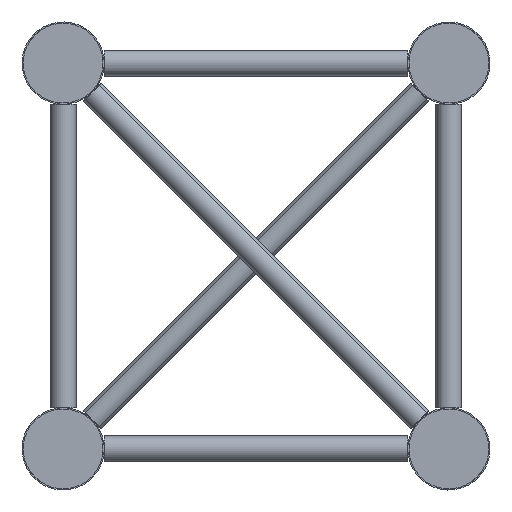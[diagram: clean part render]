
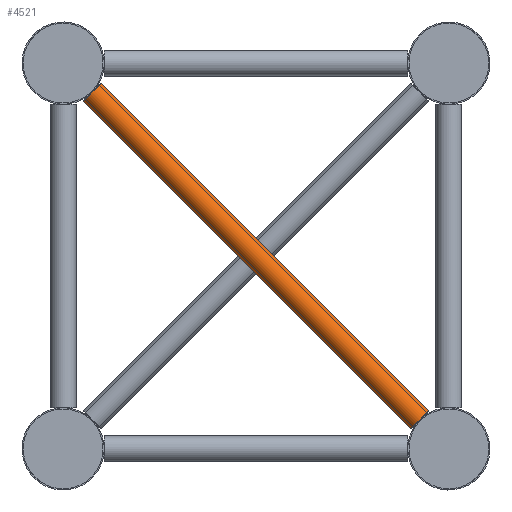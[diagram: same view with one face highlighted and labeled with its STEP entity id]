
A CAD part, left-side view. The second image highlights one B-rep face of the part: STEP entity #4521.
In plain terms, the highlighted cylindrical face has radius 8 mm (diameter 16 mm), a full revolution.
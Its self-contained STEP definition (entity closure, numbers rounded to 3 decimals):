
#503=B_SPLINE_CURVE_WITH_KNOTS('',3,(#7408,#7409,#7410,#7411,#7412,#7413),
 .UNSPECIFIED.,.F.,.F.,(4,2,4),(1.187,1.214,1.242),
 .UNSPECIFIED.);
#505=B_SPLINE_CURVE_WITH_KNOTS('',3,(#7426,#7427,#7428,#7429,#7430,#7431),
 .UNSPECIFIED.,.F.,.F.,(4,2,4),(3.616,3.643,3.67),
 .UNSPECIFIED.);
#508=B_SPLINE_CURVE_WITH_KNOTS('',3,(#7462,#7463,#7464,#7465,#7466,#7467),
 .UNSPECIFIED.,.F.,.F.,(4,2,4),(1.187,1.214,1.242),
 .UNSPECIFIED.);
#509=B_SPLINE_CURVE_WITH_KNOTS('',3,(#7471,#7472,#7473,#7474,#7475,#7476),
 .UNSPECIFIED.,.F.,.F.,(4,2,4),(3.616,3.643,3.67),
 .UNSPECIFIED.);
#550=CYLINDRICAL_SURFACE('',#4950,8.);
#733=FACE_BOUND('',#1392,.T.);
#940=FACE_OUTER_BOUND('',#1391,.T.);
#1391=EDGE_LOOP('',(#3071,#3072,#3073,#3074));
#1392=EDGE_LOOP('',(#3075,#3076,#3077,#3078));
#1820=CIRCLE('',#4949,8.);
#1821=CIRCLE('',#4951,8.);
#1822=CIRCLE('',#4952,8.);
#1823=CIRCLE('',#4953,8.);
#2084=VERTEX_POINT('',#7405);
#2085=VERTEX_POINT('',#7407);
#2088=VERTEX_POINT('',#7423);
#2089=VERTEX_POINT('',#7425);
#2094=VERTEX_POINT('',#7460);
#2095=VERTEX_POINT('',#7461);
#2096=VERTEX_POINT('',#7468);
#2097=VERTEX_POINT('',#7470);
#2400=EDGE_CURVE('',#2085,#2084,#503,.T.);
#2404=EDGE_CURVE('',#2089,#2088,#505,.T.);
#2414=EDGE_CURVE('',#2084,#2089,#1820,.T.);
#2415=EDGE_CURVE('',#2094,#2095,#508,.T.);
#2416=EDGE_CURVE('',#2095,#2096,#1821,.T.);
#2417=EDGE_CURVE('',#2096,#2097,#509,.T.);
#2418=EDGE_CURVE('',#2097,#2094,#1822,.T.);
#2419=EDGE_CURVE('',#2088,#2085,#1823,.T.);
#3071=ORIENTED_EDGE('',*,*,#2415,.T.);
#3072=ORIENTED_EDGE('',*,*,#2416,.T.);
#3073=ORIENTED_EDGE('',*,*,#2417,.T.);
#3074=ORIENTED_EDGE('',*,*,#2418,.T.);
#3075=ORIENTED_EDGE('',*,*,#2400,.T.);
#3076=ORIENTED_EDGE('',*,*,#2414,.T.);
#3077=ORIENTED_EDGE('',*,*,#2404,.T.);
#3078=ORIENTED_EDGE('',*,*,#2419,.T.);
#4521=ADVANCED_FACE('',(#940,#733),#550,.T.);
#4949=AXIS2_PLACEMENT_3D('',#7458,#5835,#5836);
#4950=AXIS2_PLACEMENT_3D('',#7459,#5837,#5838);
#4951=AXIS2_PLACEMENT_3D('',#7469,#5839,#5840);
#4952=AXIS2_PLACEMENT_3D('',#7477,#5841,#5842);
#4953=AXIS2_PLACEMENT_3D('',#7478,#5843,#5844);
#5835=DIRECTION('center_axis',(0.,-0.707,-0.707));
#5836=DIRECTION('ref_axis',(0.,0.707,-0.707));
#5837=DIRECTION('center_axis',(0.,0.707,0.707));
#5838=DIRECTION('ref_axis',(0.,0.707,-0.707));
#5839=DIRECTION('center_axis',(0.,0.707,0.707));
#5840=DIRECTION('ref_axis',(0.,0.707,-0.707));
#5841=DIRECTION('center_axis',(0.,0.707,0.707));
#5842=DIRECTION('ref_axis',(0.,0.707,-0.707));
#5843=DIRECTION('center_axis',(0.,-0.707,-0.707));
#5844=DIRECTION('ref_axis',(0.,0.707,-0.707));
#7405=CARTESIAN_POINT('',(67.995,220.776,-17.836));
#7407=CARTESIAN_POINT('',(67.995,221.164,-18.224));
#7408=CARTESIAN_POINT('Ctrl Pts',(67.995,221.164,-18.224));
#7409=CARTESIAN_POINT('Ctrl Pts',(67.998,221.098,-18.16));
#7410=CARTESIAN_POINT('Ctrl Pts',(68.,221.033,-18.096));
#7411=CARTESIAN_POINT('Ctrl Pts',(68.,220.904,-17.967));
#7412=CARTESIAN_POINT('Ctrl Pts',(67.998,220.84,-17.902));
#7413=CARTESIAN_POINT('Ctrl Pts',(67.995,220.776,-17.836));
#7423=CARTESIAN_POINT('',(52.005,221.164,-18.224));
#7425=CARTESIAN_POINT('',(52.005,220.776,-17.836));
#7426=CARTESIAN_POINT('Ctrl Pts',(52.005,220.776,-17.836));
#7427=CARTESIAN_POINT('Ctrl Pts',(52.002,220.84,-17.902));
#7428=CARTESIAN_POINT('Ctrl Pts',(52.,220.904,-17.967));
#7429=CARTESIAN_POINT('Ctrl Pts',(52.,221.033,-18.096));
#7430=CARTESIAN_POINT('Ctrl Pts',(52.002,221.098,-18.16));
#7431=CARTESIAN_POINT('Ctrl Pts',(52.005,221.164,-18.224));
#7458=CARTESIAN_POINT('Origin',(60.,220.97,-18.03));
#7459=CARTESIAN_POINT('Origin',(60.,119.5,-119.5));
#7460=CARTESIAN_POINT('',(52.005,18.224,-221.164));
#7461=CARTESIAN_POINT('',(52.005,17.836,-220.776));
#7462=CARTESIAN_POINT('Ctrl Pts',(52.005,18.224,-221.164));
#7463=CARTESIAN_POINT('Ctrl Pts',(52.002,18.16,-221.098));
#7464=CARTESIAN_POINT('Ctrl Pts',(52.,18.096,-221.033));
#7465=CARTESIAN_POINT('Ctrl Pts',(52.,17.967,-220.904));
#7466=CARTESIAN_POINT('Ctrl Pts',(52.002,17.902,-220.84));
#7467=CARTESIAN_POINT('Ctrl Pts',(52.005,17.836,-220.776));
#7468=CARTESIAN_POINT('',(67.995,17.836,-220.776));
#7469=CARTESIAN_POINT('Origin',(60.,18.03,-220.97));
#7470=CARTESIAN_POINT('',(67.995,18.224,-221.164));
#7471=CARTESIAN_POINT('Ctrl Pts',(67.995,17.836,-220.776));
#7472=CARTESIAN_POINT('Ctrl Pts',(67.998,17.902,-220.84));
#7473=CARTESIAN_POINT('Ctrl Pts',(68.,17.967,-220.904));
#7474=CARTESIAN_POINT('Ctrl Pts',(68.,18.096,-221.033));
#7475=CARTESIAN_POINT('Ctrl Pts',(67.998,18.16,-221.098));
#7476=CARTESIAN_POINT('Ctrl Pts',(67.995,18.224,-221.164));
#7477=CARTESIAN_POINT('Origin',(60.,18.03,-220.97));
#7478=CARTESIAN_POINT('Origin',(60.,220.97,-18.03));
